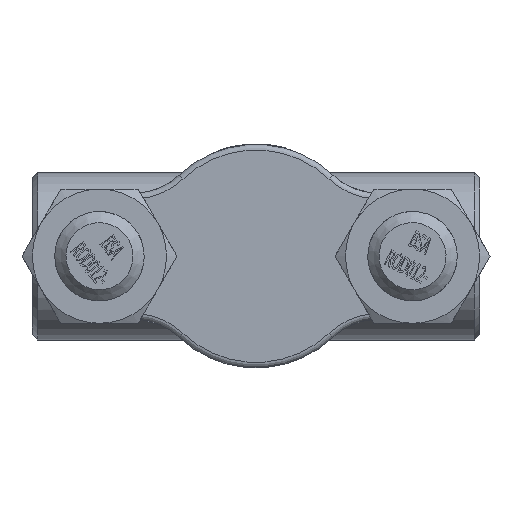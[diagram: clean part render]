
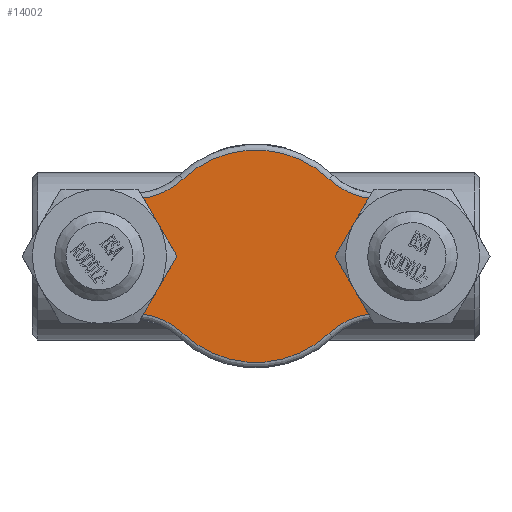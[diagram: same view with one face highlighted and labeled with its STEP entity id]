
A CAD part, front view. The second image highlights one B-rep face of the part: STEP entity #14002.
In plain terms, the highlighted planar face has unit normal (0, -1, 0) as drawn and (0, 0, -1) by its records, which use the part's own axes.
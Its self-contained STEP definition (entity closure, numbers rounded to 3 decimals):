
#3658=PLANE('',#14916);
#4061=FACE_BOUND('',#4968,.T.);
#4062=FACE_BOUND('',#4969,.T.);
#4149=FACE_OUTER_BOUND('',#4967,.T.);
#4967=EDGE_LOOP('',(#9657,#9658,#9659,#9660,#9661,#9662,#9663,#9664));
#4968=EDGE_LOOP('',(#9665));
#4969=EDGE_LOOP('',(#9666));
#5871=CIRCLE('',#14915,9.5);
#5872=CIRCLE('',#14917,11.);
#5873=CIRCLE('',#14918,13.);
#5874=CIRCLE('',#14919,19.);
#5875=CIRCLE('',#14920,13.);
#5876=CIRCLE('',#14921,11.);
#5877=CIRCLE('',#14922,13.);
#5878=CIRCLE('',#14923,19.);
#5879=CIRCLE('',#14924,13.);
#5880=CIRCLE('',#14925,9.5);
#6061=VERTEX_POINT('',#18337);
#6062=VERTEX_POINT('',#18340);
#6063=VERTEX_POINT('',#18341);
#6064=VERTEX_POINT('',#18343);
#6065=VERTEX_POINT('',#18345);
#6066=VERTEX_POINT('',#18347);
#6067=VERTEX_POINT('',#18349);
#6068=VERTEX_POINT('',#18351);
#6069=VERTEX_POINT('',#18353);
#6070=VERTEX_POINT('',#18356);
#7493=EDGE_CURVE('',#6061,#6061,#5871,.T.);
#7494=EDGE_CURVE('',#6062,#6063,#5872,.T.);
#7495=EDGE_CURVE('',#6064,#6062,#5873,.T.);
#7496=EDGE_CURVE('',#6065,#6064,#5874,.T.);
#7497=EDGE_CURVE('',#6066,#6065,#5875,.T.);
#7498=EDGE_CURVE('',#6067,#6066,#5876,.T.);
#7499=EDGE_CURVE('',#6068,#6067,#5877,.T.);
#7500=EDGE_CURVE('',#6069,#6068,#5878,.T.);
#7501=EDGE_CURVE('',#6063,#6069,#5879,.T.);
#7502=EDGE_CURVE('',#6070,#6070,#5880,.T.);
#9657=ORIENTED_EDGE('',*,*,#7494,.F.);
#9658=ORIENTED_EDGE('',*,*,#7495,.F.);
#9659=ORIENTED_EDGE('',*,*,#7496,.F.);
#9660=ORIENTED_EDGE('',*,*,#7497,.F.);
#9661=ORIENTED_EDGE('',*,*,#7498,.F.);
#9662=ORIENTED_EDGE('',*,*,#7499,.F.);
#9663=ORIENTED_EDGE('',*,*,#7500,.F.);
#9664=ORIENTED_EDGE('',*,*,#7501,.F.);
#9665=ORIENTED_EDGE('',*,*,#7502,.F.);
#9666=ORIENTED_EDGE('',*,*,#7493,.F.);
#14002=ADVANCED_FACE('',(#4149,#4061,#4062),#3658,.F.);
#14915=AXIS2_PLACEMENT_3D('',#18338,#15649,#15650);
#14916=AXIS2_PLACEMENT_3D('',#18339,#15651,#15652);
#14917=AXIS2_PLACEMENT_3D('',#18342,#15653,#15654);
#14918=AXIS2_PLACEMENT_3D('',#18344,#15655,#15656);
#14919=AXIS2_PLACEMENT_3D('',#18346,#15657,#15658);
#14920=AXIS2_PLACEMENT_3D('',#18348,#15659,#15660);
#14921=AXIS2_PLACEMENT_3D('',#18350,#15661,#15662);
#14922=AXIS2_PLACEMENT_3D('',#18352,#15663,#15664);
#14923=AXIS2_PLACEMENT_3D('',#18354,#15665,#15666);
#14924=AXIS2_PLACEMENT_3D('',#18355,#15667,#15668);
#14925=AXIS2_PLACEMENT_3D('',#18357,#15669,#15670);
#15649=DIRECTION('center_axis',(0.,0.,-1.));
#15650=DIRECTION('ref_axis',(1.,0.,0.));
#15651=DIRECTION('center_axis',(0.,0.,1.));
#15652=DIRECTION('ref_axis',(1.,0.,0.));
#15653=DIRECTION('center_axis',(0.,0.,1.));
#15654=DIRECTION('ref_axis',(-1.,0.,0.));
#15655=DIRECTION('center_axis',(0.,0.,-1.));
#15656=DIRECTION('ref_axis',(0.25,-0.968,0.));
#15657=DIRECTION('center_axis',(0.,0.,1.));
#15658=DIRECTION('ref_axis',(0.,1.,0.));
#15659=DIRECTION('center_axis',(0.,0.,-1.));
#15660=DIRECTION('ref_axis',(-0.25,-0.968,0.));
#15661=DIRECTION('center_axis',(0.,0.,1.));
#15662=DIRECTION('ref_axis',(1.,0.,0.));
#15663=DIRECTION('center_axis',(0.,0.,-1.));
#15664=DIRECTION('ref_axis',(-0.25,0.968,0.));
#15665=DIRECTION('center_axis',(0.,0.,1.));
#15666=DIRECTION('ref_axis',(0.,-1.,0.));
#15667=DIRECTION('center_axis',(0.,0.,-1.));
#15668=DIRECTION('ref_axis',(0.25,0.968,0.));
#15669=DIRECTION('center_axis',(0.,0.,-1.));
#15670=DIRECTION('ref_axis',(1.,0.,0.));
#18337=CARTESIAN_POINT('',(18.5,0.,0.));
#18338=CARTESIAN_POINT('Origin',(28.,0.,0.));
#18339=CARTESIAN_POINT('Origin',(0.,0.,
0.));
#18340=CARTESIAN_POINT('',(-25.25,10.651,0.));
#18341=CARTESIAN_POINT('',(-25.25,-10.651,0.));
#18342=CARTESIAN_POINT('Origin',(-28.,0.,0.));
#18343=CARTESIAN_POINT('',(-13.063,13.798,0.));
#18344=CARTESIAN_POINT('Origin',(-22.,23.238,0.));
#18345=CARTESIAN_POINT('',(13.063,13.798,0.));
#18346=CARTESIAN_POINT('Origin',(0.,0.,0.));
#18347=CARTESIAN_POINT('',(25.25,10.651,0.));
#18348=CARTESIAN_POINT('Origin',(22.,23.238,0.));
#18349=CARTESIAN_POINT('',(25.25,-10.651,0.));
#18350=CARTESIAN_POINT('Origin',(28.,0.,0.));
#18351=CARTESIAN_POINT('',(13.063,-13.798,0.));
#18352=CARTESIAN_POINT('Origin',(22.,-23.238,0.));
#18353=CARTESIAN_POINT('',(-13.063,-13.798,0.));
#18354=CARTESIAN_POINT('Origin',(0.,0.,0.));
#18355=CARTESIAN_POINT('Origin',(-22.,-23.238,0.));
#18356=CARTESIAN_POINT('',(-37.5,0.,0.));
#18357=CARTESIAN_POINT('Origin',(-28.,0.,0.));
